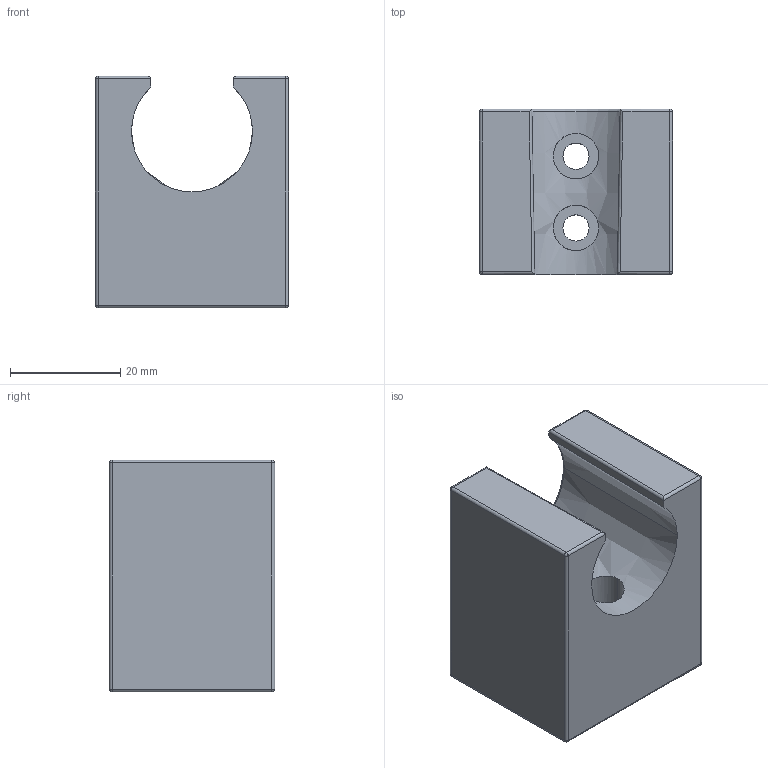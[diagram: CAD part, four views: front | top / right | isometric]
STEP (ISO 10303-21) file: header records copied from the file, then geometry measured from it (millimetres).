
FILE_DESCRIPTION (( 'STEP AP203' ), '1' );
FILE_NAME ('SUP4.STEP', '2017-05-23T14:27:42', ( '' ), ( '' ), 'SwSTEP 2.0', 'SolidWorks 2014', '' );
FILE_SCHEMA (( 'CONFIG_CONTROL_DESIGN' ));
Length unit declared in the file: millimetre
Products named in the file (1): SUP4
Bounding box: 35 x 30 x 42 mm (x, y, z)
Volume: 19525.4 mm3; surface area: 11776.7 mm2
Topology: 1 solids, 1 shells, 63 faces, 143 edges, 80 vertices
Faces by surface type: cylinder 30, plane 19, sphere 8, torus 3, cone 3
Entity records: 1913 total; most frequent: CARTESIAN_POINT 447, DIRECTION 310, ORIENTED_EDGE 270, EDGE_CURVE 135, AXIS2_PLACEMENT_3D 123, VERTEX_POINT 80, EDGE_LOOP 73, LINE 64
